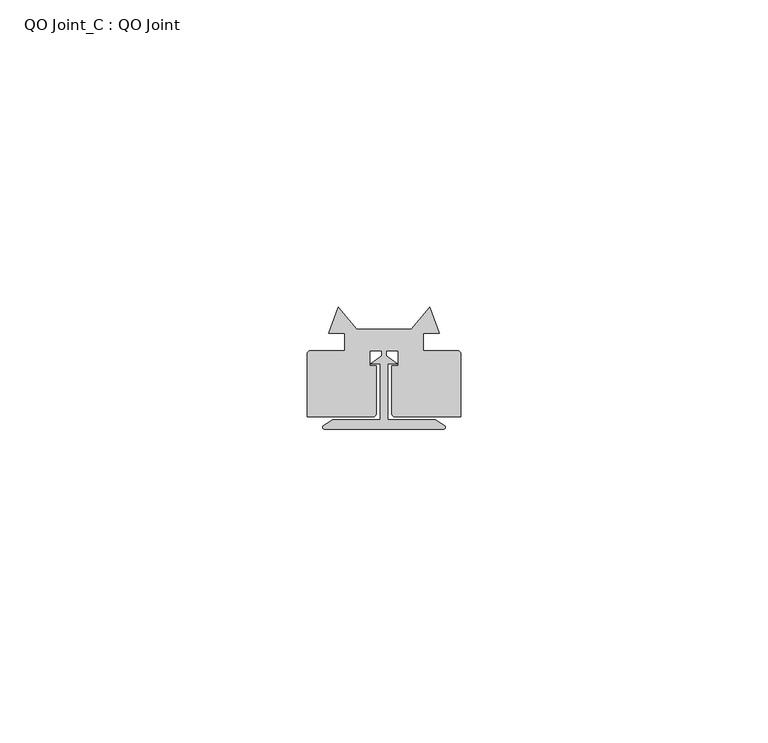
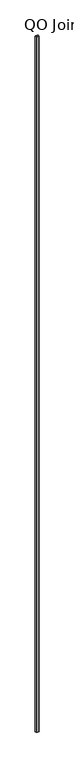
"""IFC4 building model written with IfcOpenShell, lengths in millimetres: column geometry, QO Joint_C : QO Joint."""

from ifc_helpers import new_model, si_unit, point, frame, frame_2d, origin, place, context, project, spatial, polyline, circle_curve, trimmed, segment, composite_curve, outline, extrude, source, transform, mapped, element, save


def qo_joint_c_qo_joint_44e8b77c(model_context):
    return source(origin(), model_context, "Body", "SweptSolid", [
        extrude(outline(composite_curve([segment(polyline([(-0.65, 34.6160805), (-2.1650257, 34.6160805), (-0.3521968, 35.9759407), (-0.3521968, 36.7759407), (-2.3537221, 36.7759407), (-2.3537221, 34.317153), (-1.2854895, 34.317153), (-1.2854895, 26.5392087)]), True, "CONTINUOUS"), segment(trimmed(circle_curve(frame_2d((-1.7848662, 26.5150144)), 0.4999625), [point((-1.2854895, 26.5392087))], [point((-1.7848662, 26.0150519))], False, "CARTESIAN"), True, "CONTINUOUS"), segment(polyline([(-1.7848662, 26.0150519), (-12.4986723, 26.0150519), (-12.4986723, 36.190378)]), True, "CONTINUOUS"), segment(trimmed(circle_curve(frame_2d((-11.8986723, 36.190378)), 0.6), [point((-12.4986723, 36.190378))], [point((-11.8986723, 36.790378))], False, "CARTESIAN"), True, "CONTINUOUS"), segment(polyline([(-11.8986723, 36.790378), (-6.3601486, 36.790378), (-6.3601486, 39.6058207), (-8.9587496, 39.6058207), (-7.4200002, 43.8493822), (-4.3967779, 40.3004498), (4.3967779, 40.3004498), (7.4200002, 43.8493822), (8.9587496, 39.6058207), (6.3601486, 39.6058207), (6.3601486, 36.790378), (11.8986723, 36.790378)]), True, "CONTINUOUS"), segment(trimmed(circle_curve(frame_2d((11.8986723, 36.190378)), 0.6), [point((11.8986723, 36.790378))], [point((12.4986723, 36.190378))], False, "CARTESIAN"), True, "CONTINUOUS"), segment(polyline([(12.4986723, 36.190378), (12.4986723, 26.0150519), (1.7848662, 26.0150519)]), True, "CONTINUOUS"), segment(trimmed(circle_curve(frame_2d((1.7848662, 26.5150144)), 0.4999625), [point((1.7848662, 26.0150519))], [point((1.2854895, 26.5392087))], False, "CARTESIAN"), True, "CONTINUOUS"), segment(polyline([(1.2854895, 26.5392087), (1.2854895, 34.317153), (2.3537221, 34.317153), (2.3537221, 36.7759407), (0.3521968, 36.7759407), (0.3521968, 35.9759407), (2.1650257, 34.6160805), (0.65, 34.6160805), (0.65, 25.5027713), (8.3181137, 25.5027713), (9.8500891, 24.5783623)]), True, "CONTINUOUS"), segment(trimmed(circle_curve(frame_2d((9.6899304, 24.3129396)), 0.31), [point((9.8500891, 24.5783623))], [point((9.6899304, 24.0029396))], False, "CARTESIAN"), True, "CONTINUOUS"), segment(polyline([(9.6899304, 24.0029396), (-9.6900925, 24.0029396)]), True, "CONTINUOUS"), segment(trimmed(circle_curve(frame_2d((-9.6900925, 24.3129396)), 0.31), [point((-9.6900925, 24.0029396))], [point((-9.8502511, 24.5783623))], False, "CARTESIAN"), True, "CONTINUOUS"), segment(polyline([(-9.8502511, 24.5783623), (-8.3182758, 25.5027713), (-0.65, 25.5027713), (-0.65, 34.6160805)]), True, "CONTINUOUS")], self_intersect=False)), frame((0.0, 0.0, 150.0), z_axis=(0.0, 0.0, 1.0), x_axis=(1.0, 0.0, 0.0)), (0.0, 0.0, 1.0), 6000.0),
    ])


if __name__ == "__main__":
    model = new_model("IFC4")
    model_context = context("Model", 3, world=origin())
    ifc_project = project(units=[si_unit("LENGTHUNIT", "METRE", prefix="MILLI")], contexts=[model_context])
    site = spatial("IfcSite", under=ifc_project)
    building = spatial("IfcBuilding", under=site)
    placement = place(None, origin())
    qo_joint_c_qo_joint_shape = qo_joint_c_qo_joint_44e8b77c(model_context)
    element("IfcColumn", 1, ObjectType="QO Joint_C : QO Joint", at=placement, inside=building, context=model_context, shape_type="MappedRepresentation", body=[
        mapped(qo_joint_c_qo_joint_shape, transform((0.0, 0.0, 0.0), x_axis=(1.0, 0.0, 0.0), y_axis=(0.0, 1.0, 0.0), z_axis=(0.0, 0.0, 1.0))),
    ])
    save(model, "model.ifc")
